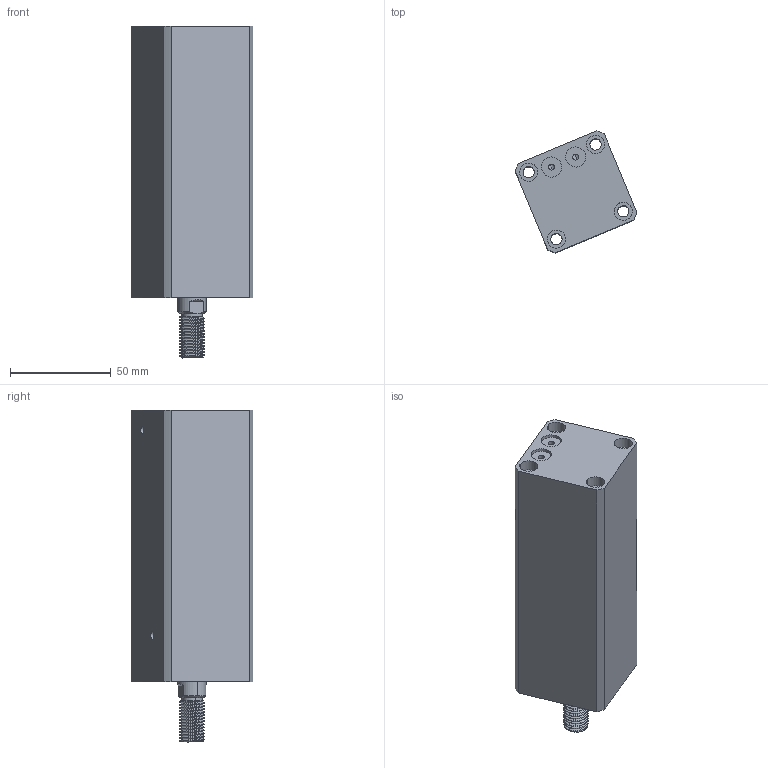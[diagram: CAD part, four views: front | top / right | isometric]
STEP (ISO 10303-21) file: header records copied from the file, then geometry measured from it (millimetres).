
FILE_DESCRIPTION (( 'STEP AP214' ), '1' );
FILE_NAME ('chtb-sdmb25x90w_asm.STEP', '2018-05-24T02:42:37', ( 'Windows' ), ( 'Microsoft' ), 'SwSTEP 2.0', 'SolidWorks 2015', '' );
FILE_SCHEMA (( 'AUTOMOTIVE_DESIGN' ));
Length unit declared in the file: millimetre
Products named in the file (4): CHTB-SDMB25X90WHSG; CHTB-SDMB25X90NBT; CHTB-25QG; chtb-sdmb25x90w_asm
Assembly tree (3 placements, depth 2):
  chtb-sdmb25x90w_asm
    CHTB-25QG
    CHTB-SDMB25X90NBT
    CHTB-SDMB25X90WHSG
Bounding box: 60.55 x 60.55 x 165 mm (x, y, z)
Volume: 264730.9 mm3; surface area: 65294.3 mm2
Topology: 3 solids, 3 shells, 176 faces, 476 edges, 323 vertices
Faces by surface type: cylinder 118, plane 37, bspline 12, cone 9
Entity records: 10721 total; most frequent: CARTESIAN_POINT 6406, ORIENTED_EDGE 944, DIRECTION 765, EDGE_CURVE 472, VERTEX_POINT 323, AXIS2_PLACEMENT_3D 310, EDGE_LOOP 215, ADVANCED_FACE 176
